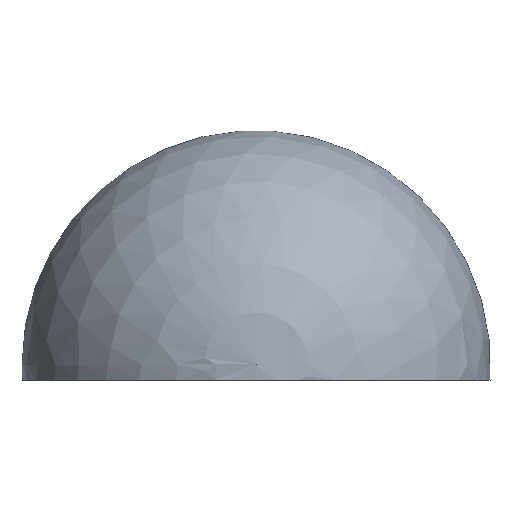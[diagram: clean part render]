
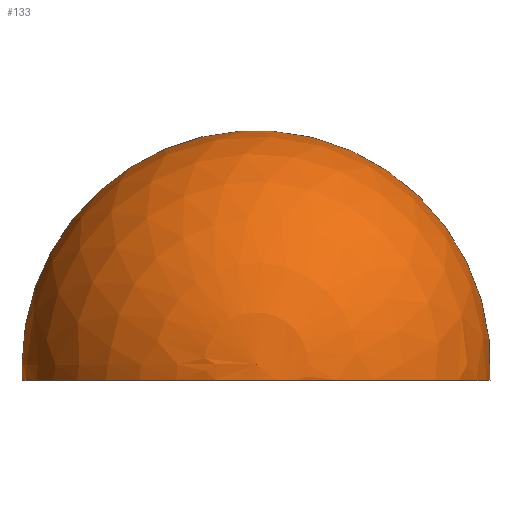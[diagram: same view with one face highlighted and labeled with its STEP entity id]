
A CAD part, top view. The second image highlights one B-rep face of the part: STEP entity #133.
In plain terms, the highlighted spherical face has radius 15 mm.
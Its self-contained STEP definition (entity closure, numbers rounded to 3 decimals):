
#7 = ORIENTED_EDGE ( 'NONE', *, *, #290, .F. ) ;
#26 = ORIENTED_EDGE ( 'NONE', *, *, #316, .T. ) ;
#28 = ORIENTED_EDGE ( 'NONE', *, *, #288, .F. ) ;
#39 = ORIENTED_EDGE ( 'NONE', *, *, #292, .T. ) ;
#45 = VERTEX_POINT ( 'NONE', #151 ) ;
#47 = VERTEX_POINT ( 'NONE', #177 ) ;
#60 = ORIENTED_EDGE ( 'NONE', *, *, #293, .T. ) ;
#65 = CIRCLE ( 'NONE', #329, 15. ) ;
#75 = VERTEX_POINT ( 'NONE', #171 ) ;
#77 = VERTEX_POINT ( 'NONE', #162 ) ;
#84 = EDGE_LOOP ( 'NONE', ( #7, #26, #39, #60, #28 ) ) ;
#90 = VERTEX_POINT ( 'NONE', #153 ) ;
#93 = FACE_OUTER_BOUND ( 'NONE', #84, .T. ) ;
#101 = CIRCLE ( 'NONE', #326, 14.967 ) ;
#102 = CIRCLE ( 'NONE', #318, 15. ) ;
#106 = CIRCLE ( 'NONE', #319, 1. ) ;
#115 = SPHERICAL_SURFACE ( 'NONE', #295, 15. ) ;
#130 = CIRCLE ( 'NONE', #322, 1. ) ;
#133 = ADVANCED_FACE ( 'NONE', ( #93 ), #115, .T. ) ;
#149 = CARTESIAN_POINT ( 'NONE',  ( 0., 0., 0. ) ) ;
#151 = CARTESIAN_POINT ( 'NONE',  ( 1., 14.967, 0. ) ) ;
#153 = CARTESIAN_POINT ( 'NONE',  ( -1., 14.967, 0. ) ) ;
#155 = DIRECTION ( 'NONE',  ( -1., 0., 0. ) ) ;
#158 = DIRECTION ( 'NONE',  ( 0., 0., -1. ) ) ;
#162 = CARTESIAN_POINT ( 'NONE',  ( 0., 14.967, 1. ) ) ;
#171 = CARTESIAN_POINT ( 'NONE',  ( 14.967, -1., 0. ) ) ;
#177 = CARTESIAN_POINT ( 'NONE',  ( -14.967, -1., 0. ) ) ;
#182 = CARTESIAN_POINT ( 'NONE',  ( 0., 14.967, 0. ) ) ;
#183 = DIRECTION ( 'NONE',  ( 0., 0., 1. ) ) ;
#185 = DIRECTION ( 'NONE',  ( 0., -1., 0. ) ) ;
#190 = DIRECTION ( 'NONE',  ( 0., 0., -1. ) ) ;
#204 = DIRECTION ( 'NONE',  ( -1., 0., 0. ) ) ;
#206 = CARTESIAN_POINT ( 'NONE',  ( 0., 0., 0. ) ) ;
#208 = CARTESIAN_POINT ( 'NONE',  ( 0., -1., 0. ) ) ;
#209 = DIRECTION ( 'NONE',  ( 1., 0., 0. ) ) ;
#210 = DIRECTION ( 'NONE',  ( 0., -1., 0. ) ) ;
#211 = DIRECTION ( 'NONE',  ( 0., 0., -1. ) ) ;
#214 = CARTESIAN_POINT ( 'NONE',  ( 0., 0., 0. ) ) ;
#218 = DIRECTION ( 'NONE',  ( 0., 0., -1. ) ) ;
#274 = DIRECTION ( 'NONE',  ( 0., 0., -1. ) ) ;
#280 = CARTESIAN_POINT ( 'NONE',  ( 0., 14.967, 0. ) ) ;
#286 = DIRECTION ( 'NONE',  ( 0., -1., 0. ) ) ;
#288 = EDGE_CURVE ( 'NONE', #75, #47, #101, .T. ) ;
#290 = EDGE_CURVE ( 'NONE', #45, #75, #102, .T. ) ;
#292 = EDGE_CURVE ( 'NONE', #77, #90, #106, .T. ) ;
#293 = EDGE_CURVE ( 'NONE', #90, #47, #65, .T. ) ;
#295 = AXIS2_PLACEMENT_3D ( 'NONE', #149, #158, #155 ) ;
#316 = EDGE_CURVE ( 'NONE', #45, #77, #130, .T. ) ;
#318 = AXIS2_PLACEMENT_3D ( 'NONE', #214, #218, #204 ) ;
#319 = AXIS2_PLACEMENT_3D ( 'NONE', #182, #185, #190 ) ;
#322 = AXIS2_PLACEMENT_3D ( 'NONE', #280, #286, #274 ) ;
#326 = AXIS2_PLACEMENT_3D ( 'NONE', #208, #210, #211 ) ;
#329 = AXIS2_PLACEMENT_3D ( 'NONE', #206, #183, #209 ) ;
